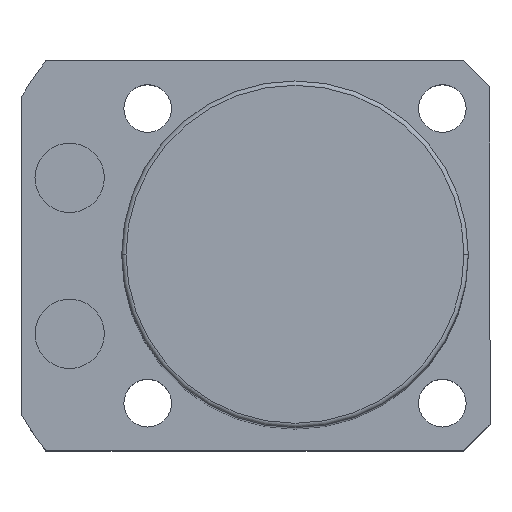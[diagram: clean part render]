
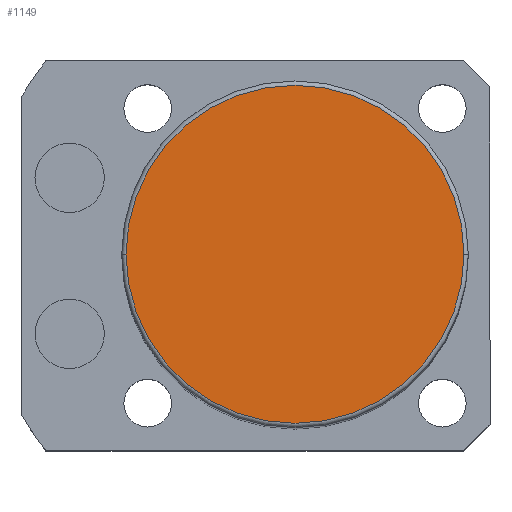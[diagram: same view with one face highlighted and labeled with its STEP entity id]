
A CAD part, top view. The second image highlights one B-rep face of the part: STEP entity #1149.
In plain terms, the highlighted planar face has unit normal (0, 0, 1).
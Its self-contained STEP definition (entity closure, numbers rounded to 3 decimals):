
#14 = PLANE ( 'NONE',  #2124 ) ;
#124 = ORIENTED_EDGE ( 'NONE', *, *, #944, .T. ) ;
#362 = DIRECTION ( 'NONE',  ( 1., 0., 0. ) ) ;
#445 = CARTESIAN_POINT ( 'NONE',  ( 0., 0., 113.5 ) ) ;
#555 = CIRCLE ( 'NONE', #2497, 19.5 ) ;
#944 = EDGE_CURVE ( 'NONE', #1039, #1293, #2102, .T. ) ;
#984 = CARTESIAN_POINT ( 'NONE',  ( 0., 0., 113.5 ) ) ;
#1039 = VERTEX_POINT ( 'NONE', #2655 ) ;
#1061 = DIRECTION ( 'NONE',  ( 0., 0., 1. ) ) ;
#1080 = CARTESIAN_POINT ( 'NONE',  ( -19.5, 0., 113.5 ) ) ;
#1149 = ADVANCED_FACE ( 'NONE', ( #1281 ), #14, .T. ) ;
#1281 = FACE_OUTER_BOUND ( 'NONE', #1383, .T. ) ;
#1293 = VERTEX_POINT ( 'NONE', #1080 ) ;
#1383 = EDGE_LOOP ( 'NONE', ( #124, #2267 ) ) ;
#1480 = DIRECTION ( 'NONE',  ( 1., 0., 0. ) ) ;
#1641 = AXIS2_PLACEMENT_3D ( 'NONE', #2258, #1784, #1999 ) ;
#1784 = DIRECTION ( 'NONE',  ( 0., 0., 1. ) ) ;
#1999 = DIRECTION ( 'NONE',  ( 1., 0., 0. ) ) ;
#2102 = CIRCLE ( 'NONE', #1641, 19.5 ) ;
#2124 = AXIS2_PLACEMENT_3D ( 'NONE', #445, #1061, #1480 ) ;
#2258 = CARTESIAN_POINT ( 'NONE',  ( 0., 0., 113.5 ) ) ;
#2264 = EDGE_CURVE ( 'NONE', #1293, #1039, #555, .T. ) ;
#2267 = ORIENTED_EDGE ( 'NONE', *, *, #2264, .T. ) ;
#2462 = DIRECTION ( 'NONE',  ( 0., 0., 1. ) ) ;
#2497 = AXIS2_PLACEMENT_3D ( 'NONE', #984, #2462, #362 ) ;
#2655 = CARTESIAN_POINT ( 'NONE',  ( 19.5, 0., 113.5 ) ) ;
